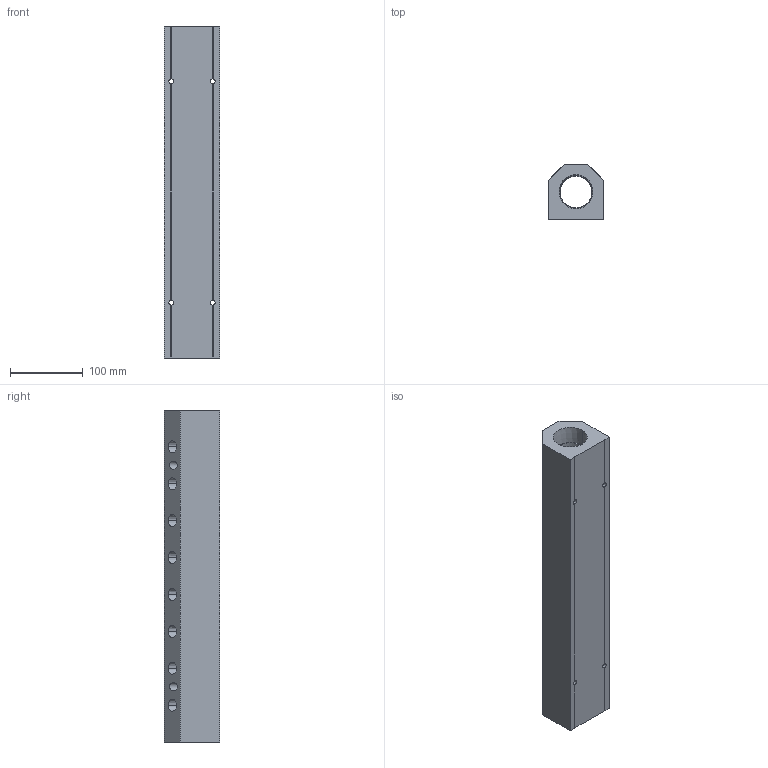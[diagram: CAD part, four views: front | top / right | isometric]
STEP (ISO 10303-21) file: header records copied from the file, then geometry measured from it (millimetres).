
FILE_DESCRIPTION (( 'STEP AP214' ), '1' );
FILE_NAME ('ALM8BD-N6N24-457R.step', '2022-02-07T07:58:17', ( '' ), ( '' ), 'SwSTEP 2.0', 'SolidWorks 2020', '' );
FILE_SCHEMA (( 'AUTOMOTIVE_DESIGN' ));
Length unit declared in the file: millimetre
Products named in the file (1): ALM8BD-N6N24-457R
Bounding box: 76.2 x 76.2 x 457 mm (x, y, z)
Volume: 1649303.4 mm3; surface area: 210980.6 mm2
Topology: 1 solids, 1 shells, 334 faces, 883 edges, 586 vertices
Faces by surface type: plane 217, bspline 63, cone 36, cylinder 18
Entity records: 18784 total; most frequent: CARTESIAN_POINT 7739, ORIENTED_EDGE 1766, DIRECTION 1321, EDGE_CURVE 883, VECTOR 641, LINE 641, VERTEX_POINT 586, EDGE_LOOP 411
